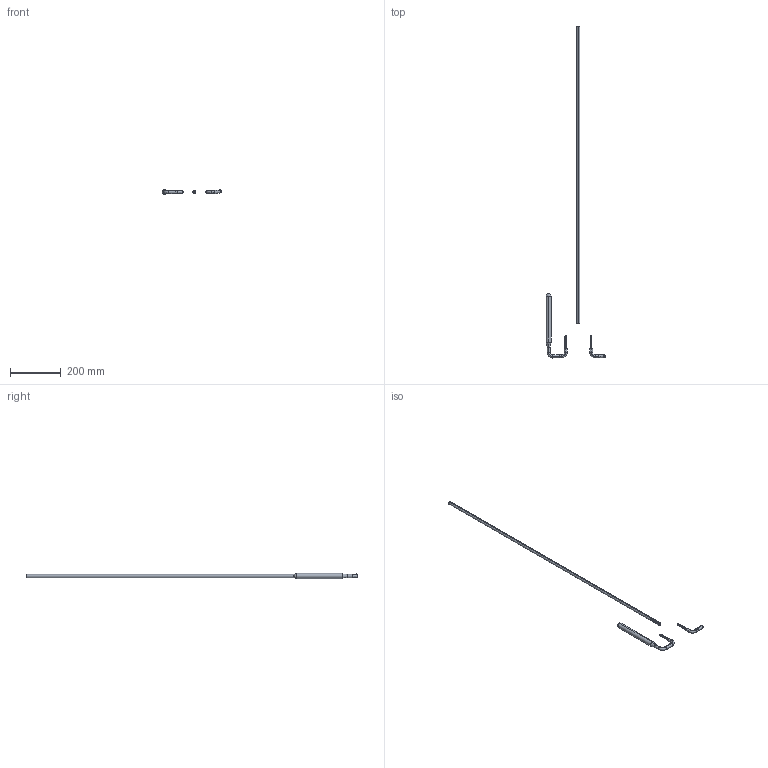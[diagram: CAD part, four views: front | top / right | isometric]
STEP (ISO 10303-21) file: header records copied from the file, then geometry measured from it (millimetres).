
FILE_DESCRIPTION(/* description */ (''),/* implementation_level */ '2;1');
FILE_NAME(/* name */ 'Rod1',/* time_stamp */ '2026-08-07T09:14:36+02:00',/* author */ (''),/* organization */ (''),/* preprocessor_version */ 'ST-DEVELOPER v19.2',/* originating_system */ 'Rhino 8.33',/* authorisation */ '');
FILE_SCHEMA (('CONFIG_CONTROL_DESIGN'));
Length unit declared in the file: millimetre
Products named in the file (1): Document
Bounding box: 235.71 x 1307.1 x 20 mm (x, y, z)
Volume: 129798.2 mm3; surface area: 107953.7 mm2
Topology: 4 solids, 4 shells, 1141 faces, 2431 edges, 1296 vertices
Faces by surface type: bspline 817, cylinder 314, plane 10
Entity records: 40591 total; most frequent: CARTESIAN_POINT 20281, ORIENTED_EDGE 4854, DIRECTION 2974, EDGE_CURVE 2427, AXIS2_PLACEMENT_3D 1649, TRIMMED_CURVE 1323, CIRCLE 1323, VERTEX_POINT 1296
